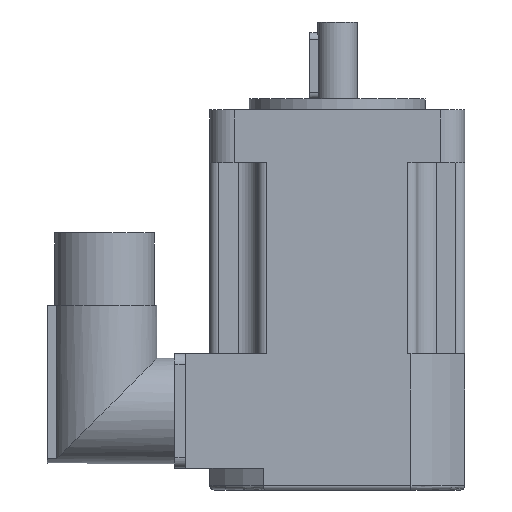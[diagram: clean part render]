
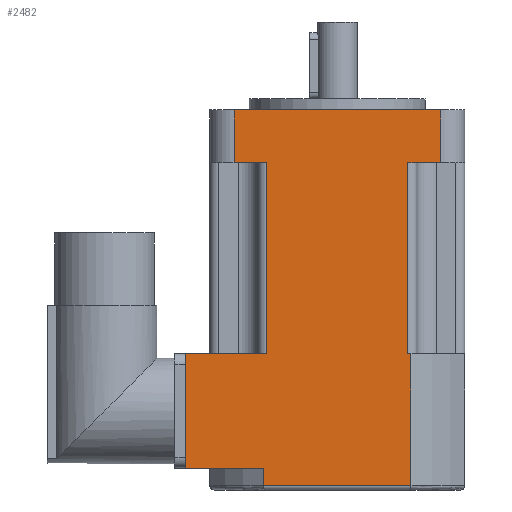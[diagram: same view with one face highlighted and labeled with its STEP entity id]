
A CAD part, left-side view. The second image highlights one B-rep face of the part: STEP entity #2482.
In plain terms, the highlighted planar face has unit normal (-1, 0, 0).
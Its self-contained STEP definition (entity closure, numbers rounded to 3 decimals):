
#99=LINE('',#3835,#320);
#122=LINE('',#3903,#343);
#138=LINE('',#3952,#359);
#139=LINE('',#3955,#360);
#142=LINE('',#3961,#363);
#165=LINE('',#4021,#386);
#166=LINE('',#4026,#387);
#188=LINE('',#4075,#409);
#191=LINE('',#4084,#412);
#199=LINE('',#4220,#420);
#201=LINE('',#4242,#422);
#203=LINE('',#4247,#424);
#204=LINE('',#4249,#425);
#205=LINE('',#4250,#426);
#320=VECTOR('',#3044,7.425);
#343=VECTOR('',#3107,7.425);
#359=VECTOR('',#3163,12.);
#360=VECTOR('',#3166,12.);
#363=VECTOR('',#3173,47.);
#386=VECTOR('',#3238,43.5);
#387=VECTOR('',#3243,43.5);
#409=VECTOR('',#3287,18.425);
#412=VECTOR('',#3296,0.696);
#420=VECTOR('',#3332,33.541);
#422=VECTOR('',#3342,4.);
#424=VECTOR('',#3348,30.);
#425=VECTOR('',#3349,26.);
#426=VECTOR('',#3350,17.729);
#525=PLANE('',#2718);
#733=FACE_OUTER_BOUND('',#889,.T.);
#889=EDGE_LOOP('',(#2153,#2154,#2155,#2156,#2157,#2158,#2159,#2160,#2161,
#2162,#2163,#2164,#2165,#2166));
#1149=VERTEX_POINT('',#3832);
#1150=VERTEX_POINT('',#3834);
#1174=VERTEX_POINT('',#3900);
#1175=VERTEX_POINT('',#3902);
#1188=VERTEX_POINT('',#3950);
#1189=VERTEX_POINT('',#3954);
#1206=VERTEX_POINT('',#4019);
#1207=VERTEX_POINT('',#4023);
#1224=VERTEX_POINT('',#4073);
#1227=VERTEX_POINT('',#4083);
#1241=VERTEX_POINT('',#4200);
#1243=VERTEX_POINT('',#4219);
#1245=VERTEX_POINT('',#4241);
#1247=VERTEX_POINT('',#4248);
#1418=EDGE_CURVE('',#1150,#1149,#99,.T.);
#1452=EDGE_CURVE('',#1175,#1174,#122,.T.);
#1477=EDGE_CURVE('',#1149,#1188,#138,.T.);
#1478=EDGE_CURVE('',#1175,#1189,#139,.T.);
#1482=EDGE_CURVE('',#1189,#1188,#142,.T.);
#1513=EDGE_CURVE('',#1206,#1150,#165,.T.);
#1515=EDGE_CURVE('',#1207,#1174,#166,.T.);
#1540=EDGE_CURVE('',#1224,#1207,#188,.T.);
#1544=EDGE_CURVE('',#1206,#1227,#191,.T.);
#1566=EDGE_CURVE('',#1243,#1241,#199,.T.);
#1571=EDGE_CURVE('',#1245,#1241,#201,.T.);
#1574=EDGE_CURVE('',#1243,#1227,#203,.T.);
#1575=EDGE_CURVE('',#1224,#1247,#204,.T.);
#1576=EDGE_CURVE('',#1245,#1247,#205,.T.);
#2153=ORIENTED_EDGE('',*,*,#1566,.F.);
#2154=ORIENTED_EDGE('',*,*,#1574,.T.);
#2155=ORIENTED_EDGE('',*,*,#1544,.F.);
#2156=ORIENTED_EDGE('',*,*,#1513,.T.);
#2157=ORIENTED_EDGE('',*,*,#1418,.T.);
#2158=ORIENTED_EDGE('',*,*,#1477,.T.);
#2159=ORIENTED_EDGE('',*,*,#1482,.F.);
#2160=ORIENTED_EDGE('',*,*,#1478,.F.);
#2161=ORIENTED_EDGE('',*,*,#1452,.T.);
#2162=ORIENTED_EDGE('',*,*,#1515,.F.);
#2163=ORIENTED_EDGE('',*,*,#1540,.F.);
#2164=ORIENTED_EDGE('',*,*,#1575,.T.);
#2165=ORIENTED_EDGE('',*,*,#1576,.F.);
#2166=ORIENTED_EDGE('',*,*,#1571,.T.);
#2482=ADVANCED_FACE('',(#733),#525,.T.);
#2718=AXIS2_PLACEMENT_3D('',#4246,#3346,#3347);
#3044=DIRECTION('',(0.,-1.,0.));
#3107=DIRECTION('',(0.,-1.,0.));
#3163=DIRECTION('',(0.,0.,1.));
#3166=DIRECTION('',(0.,0.,1.));
#3173=DIRECTION('',(0.,-1.,0.));
#3238=DIRECTION('',(0.,0.,1.));
#3243=DIRECTION('',(0.,0.,1.));
#3287=DIRECTION('',(0.,-1.,0.));
#3296=DIRECTION('',(0.,-1.,0.));
#3332=DIRECTION('',(0.,1.,0.));
#3342=DIRECTION('',(0.,0.,-1.));
#3346=DIRECTION('center_axis',(-1.,0.,0.));
#3347=DIRECTION('ref_axis',(0.,-1.,0.));
#3348=DIRECTION('',(0.,0.,1.));
#3349=DIRECTION('',(0.,0.,-1.));
#3350=DIRECTION('',(0.,1.,0.));
#3832=CARTESIAN_POINT('',(-29.,-23.5,56.5));
#3834=CARTESIAN_POINT('',(-29.,-16.075,56.5));
#3835=CARTESIAN_POINT('',(-29.,23.5,56.5));
#3900=CARTESIAN_POINT('',(-29.,16.075,56.5));
#3902=CARTESIAN_POINT('',(-29.,23.5,56.5));
#3903=CARTESIAN_POINT('',(-29.,23.5,56.5));
#3950=CARTESIAN_POINT('',(-29.,-23.5,68.5));
#3952=CARTESIAN_POINT('',(-29.,-23.5,56.5));
#3954=CARTESIAN_POINT('',(-29.,23.5,68.5));
#3955=CARTESIAN_POINT('',(-29.,23.5,56.5));
#3961=CARTESIAN_POINT('',(-29.,23.5,68.5));
#4019=CARTESIAN_POINT('',(-29.,-16.075,13.));
#4021=CARTESIAN_POINT('',(-29.,-16.075,13.));
#4023=CARTESIAN_POINT('',(-29.,16.075,13.));
#4026=CARTESIAN_POINT('',(-29.,16.075,13.));
#4073=CARTESIAN_POINT('',(-29.,34.5,13.));
#4075=CARTESIAN_POINT('',(-29.,34.5,13.));
#4083=CARTESIAN_POINT('',(-29.,-16.771,13.));
#4084=CARTESIAN_POINT('',(-29.,34.5,13.));
#4200=CARTESIAN_POINT('',(-29.,16.771,-17.));
#4219=CARTESIAN_POINT('',(-29.,-16.771,-17.));
#4220=CARTESIAN_POINT('',(-29.,17.25,-17.));
#4241=CARTESIAN_POINT('',(-29.,16.771,-13.));
#4242=CARTESIAN_POINT('',(-29.,16.771,-13.));
#4246=CARTESIAN_POINT('Origin',(-29.,34.5,0.));
#4247=CARTESIAN_POINT('',(-29.,-16.771,0.));
#4248=CARTESIAN_POINT('',(-29.,34.5,-13.));
#4249=CARTESIAN_POINT('',(-29.,34.5,0.));
#4250=CARTESIAN_POINT('',(-29.,34.5,-13.));
